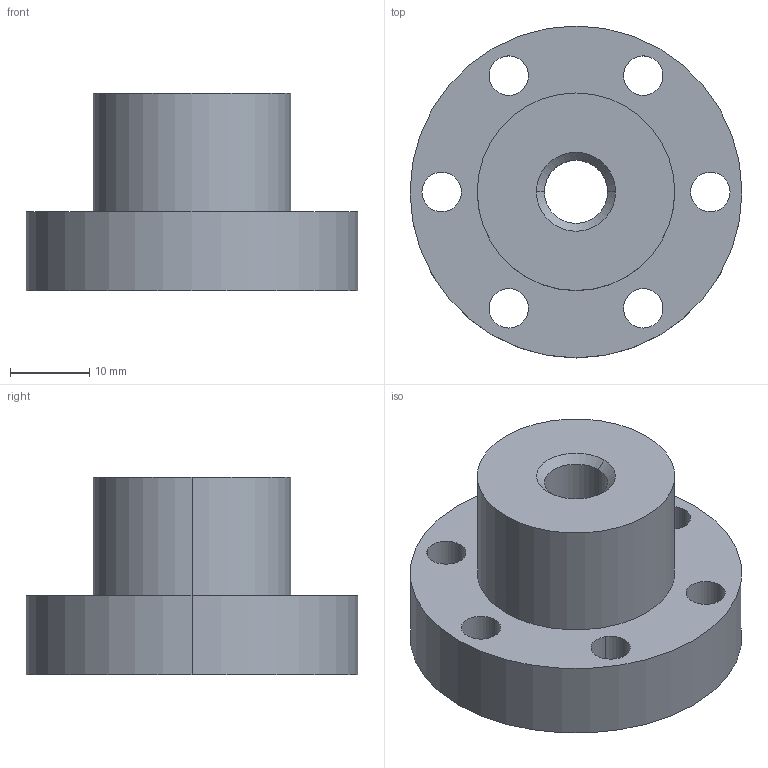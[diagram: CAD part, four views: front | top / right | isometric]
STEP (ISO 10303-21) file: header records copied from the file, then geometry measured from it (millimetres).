
FILE_DESCRIPTION(('FreeCAD Model'),'2;1');
FILE_NAME('Open CASCADE Shape Model','2021-05-04T13:28:19',('Author'),( ''),'Open CASCADE STEP processor 7.5','FreeCAD','Unknown');
FILE_SCHEMA(('AUTOMOTIVE_DESIGN { 1 0 10303 214 1 1 1 1 }'));
Length unit declared in the file: millimetre
Products named in the file (1): igus_jfrm-2525tr10x2_r001l2k4ww010e3h8xuehqqx
Bounding box: 42 x 42 x 25 mm (x, y, z)
Volume: 18755.6 mm3; surface area: 6476.3 mm2
Topology: 1 solids, 1 shells, 25 faces, 62 edges, 40 vertices
Faces by surface type: cylinder 18, cone 4, plane 3
Entity records: 1716 total; most frequent: CARTESIAN_POINT 444, DIRECTION 246, ORIENTED_EDGE 124, PCURVE 124, DEFINITIONAL_REPRESENTATION 124, LINE 110, VECTOR 110, AXIS2_PLACEMENT_3D 66
